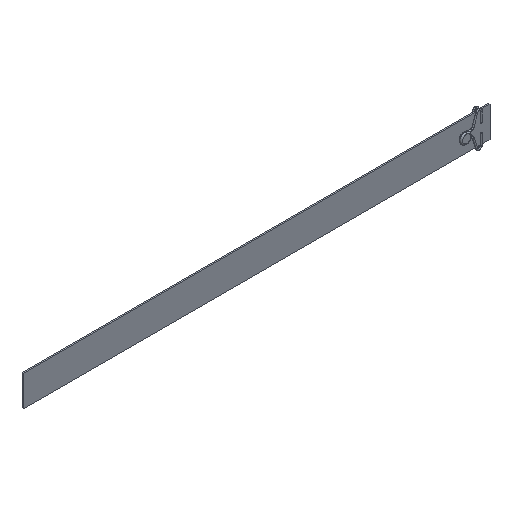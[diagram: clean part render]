
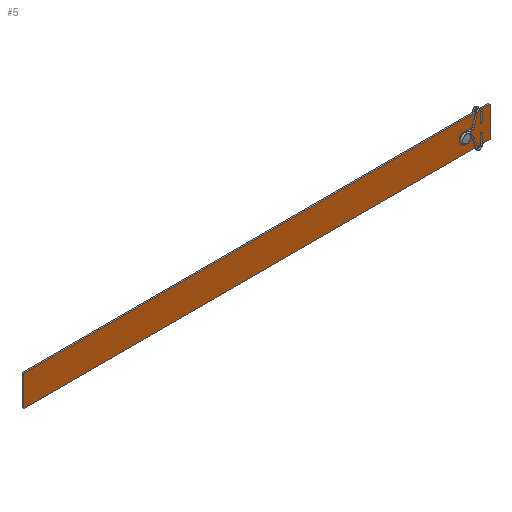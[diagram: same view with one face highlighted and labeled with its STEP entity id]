
A CAD part, isometric view. The second image highlights one B-rep face of the part: STEP entity #5.
In plain terms, the highlighted planar face has unit normal (0, -1, 0).
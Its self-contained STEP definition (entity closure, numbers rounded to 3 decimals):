
#5 = ADVANCED_FACE ( 'NONE', ( #1508, #1069 ), #2193, .F. ) ;
#70 = DIRECTION ( 'NONE',  ( 1., 0., 0. ) ) ;
#166 = EDGE_CURVE ( 'NONE', #407, #2025, #801, .T. ) ;
#170 = VERTEX_POINT ( 'NONE', #792 ) ;
#195 = EDGE_LOOP ( 'NONE', ( #1868, #724, #1170, #1727 ) ) ;
#225 = CARTESIAN_POINT ( 'NONE',  ( 0., -0.5, 9.9 ) ) ;
#267 = AXIS2_PLACEMENT_3D ( 'NONE', #1621, #1468, #1488 ) ;
#322 = EDGE_CURVE ( 'NONE', #1125, #170, #927, .T. ) ;
#407 = VERTEX_POINT ( 'NONE', #225 ) ;
#439 = EDGE_CURVE ( 'NONE', #2025, #1051, #1126, .T. ) ;
#440 = EDGE_LOOP ( 'NONE', ( #1634, #2173 ) ) ;
#447 = EDGE_CURVE ( 'NONE', #1517, #407, #1909, .T. ) ;
#486 = LINE ( 'NONE', #977, #920 ) ;
#586 = CARTESIAN_POINT ( 'NONE',  ( 0., -0.5, -9.9 ) ) ;
#611 = CARTESIAN_POINT ( 'NONE',  ( 0., -0.5, 0. ) ) ;
#650 = DIRECTION ( 'NONE',  ( 0., 1., 0. ) ) ;
#724 = ORIENTED_EDGE ( 'NONE', *, *, #166, .F. ) ;
#746 = VECTOR ( 'NONE', #804, 1000. ) ;
#758 = DIRECTION ( 'NONE',  ( 0., 0., 1. ) ) ;
#780 = EDGE_CURVE ( 'NONE', #1051, #1517, #486, .T. ) ;
#792 = CARTESIAN_POINT ( 'NONE',  ( -17., -0.5, 1.95 ) ) ;
#801 = LINE ( 'NONE', #1985, #746 ) ;
#804 = DIRECTION ( 'NONE',  ( 0., 0., -1. ) ) ;
#920 = VECTOR ( 'NONE', #758, 1000. ) ;
#927 = CIRCLE ( 'NONE', #1100, 1.95 ) ;
#977 = CARTESIAN_POINT ( 'NONE',  ( -300., -0.5, -9.9 ) ) ;
#1051 = VERTEX_POINT ( 'NONE', #1968 ) ;
#1068 = VECTOR ( 'NONE', #2004, 1000. ) ;
#1069 = FACE_OUTER_BOUND ( 'NONE', #195, .T. ) ;
#1100 = AXIS2_PLACEMENT_3D ( 'NONE', #1807, #1813, #1825 ) ;
#1125 = VERTEX_POINT ( 'NONE', #1809 ) ;
#1126 = LINE ( 'NONE', #586, #1068 ) ;
#1170 = ORIENTED_EDGE ( 'NONE', *, *, #447, .F. ) ;
#1252 = CIRCLE ( 'NONE', #267, 1.95 ) ;
#1465 = VECTOR ( 'NONE', #70, 1000. ) ;
#1468 = DIRECTION ( 'NONE',  ( 0., 1., 0. ) ) ;
#1488 = DIRECTION ( 'NONE',  ( 0., 0., 1. ) ) ;
#1508 = FACE_BOUND ( 'NONE', #440, .T. ) ;
#1517 = VERTEX_POINT ( 'NONE', #1889 ) ;
#1621 = CARTESIAN_POINT ( 'NONE',  ( -17., -0.5, 0. ) ) ;
#1634 = ORIENTED_EDGE ( 'NONE', *, *, #1791, .T. ) ;
#1727 = ORIENTED_EDGE ( 'NONE', *, *, #780, .F. ) ;
#1775 = DIRECTION ( 'NONE',  ( 0., 0., 1. ) ) ;
#1791 = EDGE_CURVE ( 'NONE', #170, #1125, #1252, .T. ) ;
#1807 = CARTESIAN_POINT ( 'NONE',  ( -17., -0.5, 0. ) ) ;
#1809 = CARTESIAN_POINT ( 'NONE',  ( -17., -0.5, -1.95 ) ) ;
#1813 = DIRECTION ( 'NONE',  ( 0., 1., 0. ) ) ;
#1825 = DIRECTION ( 'NONE',  ( 0., 0., 1. ) ) ;
#1864 = CARTESIAN_POINT ( 'NONE',  ( 0., -0.5, -9.9 ) ) ;
#1868 = ORIENTED_EDGE ( 'NONE', *, *, #439, .F. ) ;
#1889 = CARTESIAN_POINT ( 'NONE',  ( -300., -0.5, 9.9 ) ) ;
#1909 = LINE ( 'NONE', #1920, #1465 ) ;
#1920 = CARTESIAN_POINT ( 'NONE',  ( 0., -0.5, 9.9 ) ) ;
#1968 = CARTESIAN_POINT ( 'NONE',  ( -300., -0.5, -9.9 ) ) ;
#1969 = AXIS2_PLACEMENT_3D ( 'NONE', #611, #650, #1775 ) ;
#1985 = CARTESIAN_POINT ( 'NONE',  ( 0., -0.5, 9.9 ) ) ;
#2004 = DIRECTION ( 'NONE',  ( -1., 0., 0. ) ) ;
#2025 = VERTEX_POINT ( 'NONE', #1864 ) ;
#2173 = ORIENTED_EDGE ( 'NONE', *, *, #322, .T. ) ;
#2193 = PLANE ( 'NONE',  #1969 ) ;
